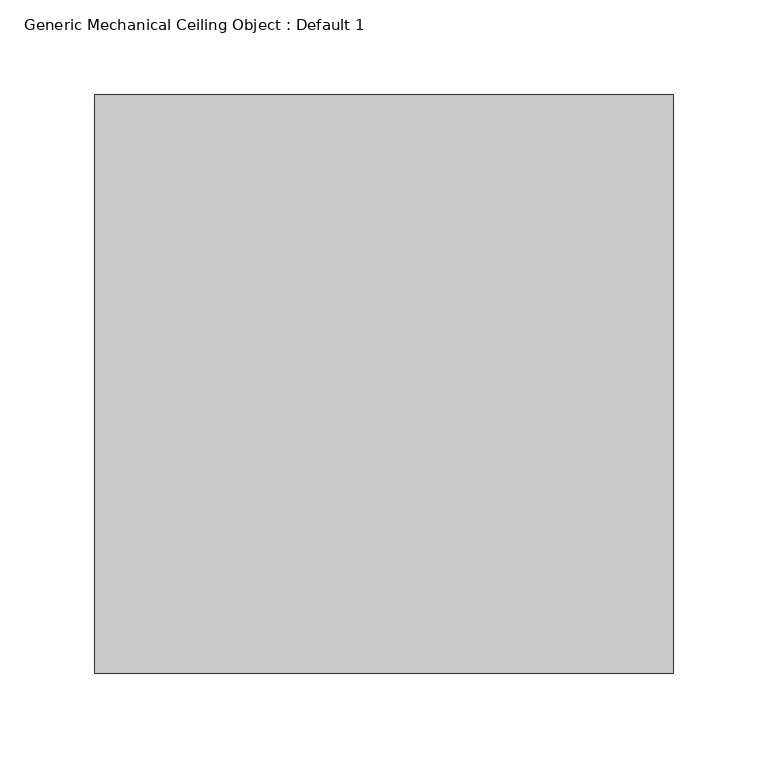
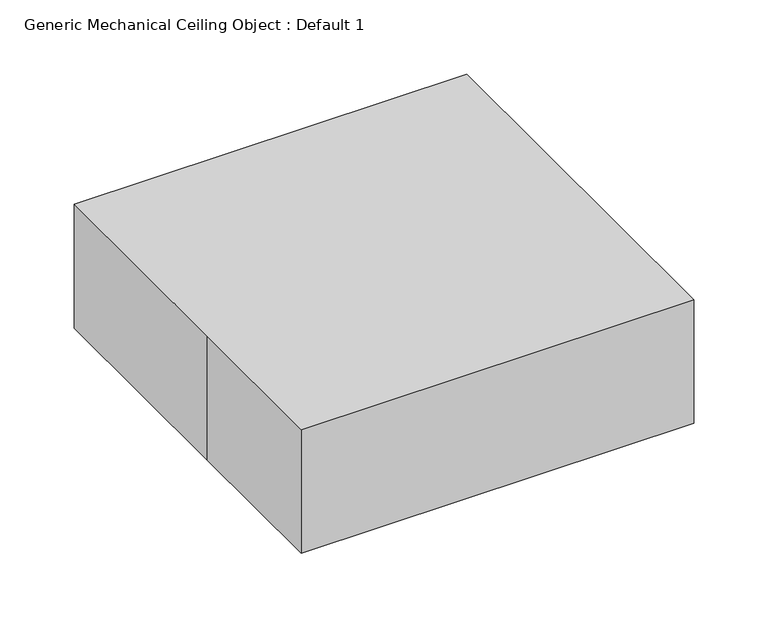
"""IFC4 building model written with IfcOpenShell, lengths in millimetres: proxy geometry, Generic Mechanical Ceiling Object : Default 1."""

from ifc_helpers import new_model, si_unit, frame, origin, place, context, project, spatial, polyline, outline, extrude, source, transform, mapped, element, save


def generic_mechanical_ceiling_object_default_1_1d04c9e1(model_context):
    return source(origin(), model_context, "Body", "SweptSolid", [
        extrude(outline(polyline([(-152.4, 152.4), (152.4, 152.4), (152.4, -152.4), (-152.4, -152.4), (-152.4, -25.4), (-152.4, 152.4)])), frame((0.0, 0.0, 2336.8), z_axis=(0.0, 0.0, 1.0), x_axis=(1.0, 0.0, 0.0)), (0.0, 0.0, 1.0), 101.6),
        extrude(outline(polyline([(-23.5066154, -23.1581169), (-23.5066154, 27.8736887), (-12.530292, 27.8736887), (-2.0897029, -8.0952622), (0.0158574, -15.6080011), (2.2958429, -7.4723153), (12.5620069, 27.8736887), (23.5383303, 27.8736887), (23.5383303, -23.1581169), (17.1593546, -23.1581169), (17.1593546, 21.494713), (4.3391085, -23.1581169), (-4.3073937, -23.1581169), (-17.1276397, 21.494713), (-17.1276397, -23.1581169), (-23.5066154, -23.1581169)])), frame((0.0, 0.0, 2336.8), z_axis=(0.0, 0.0, 1.0), x_axis=(1.0, 0.0, 0.0)), (0.0, 0.0, 1.0), 50.8),
    ])


if __name__ == "__main__":
    model = new_model("IFC4")
    model_context = context("Model", 3, world=origin())
    ifc_project = project(units=[si_unit("LENGTHUNIT", "METRE", prefix="MILLI")], contexts=[model_context])
    site = spatial("IfcSite", under=ifc_project)
    building = spatial("IfcBuilding", under=site)
    placement = place(None, origin())
    generic_mechanical_ceiling_object_default_1_shape = generic_mechanical_ceiling_object_default_1_1d04c9e1(model_context)
    element("IfcBuildingElementProxy", 1, Name="Generic Mechanical Ceiling Object : Default 1", ObjectType="Generic Mechanical Ceiling Object : Default 1", at=placement, inside=building, context=model_context, shape_type="MappedRepresentation", body=[
        mapped(generic_mechanical_ceiling_object_default_1_shape, transform((0.0, 0.0, 0.0), x_axis=(1.0, 0.0, 0.0), y_axis=(0.0, 1.0, 0.0), z_axis=(0.0, 0.0, 1.0))),
    ])
    save(model, "model.ifc")
